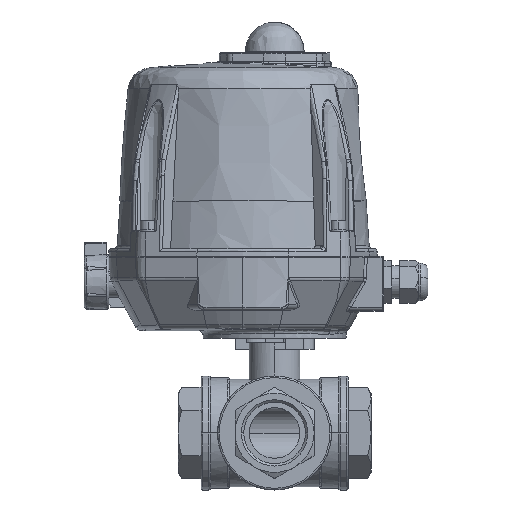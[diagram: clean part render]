
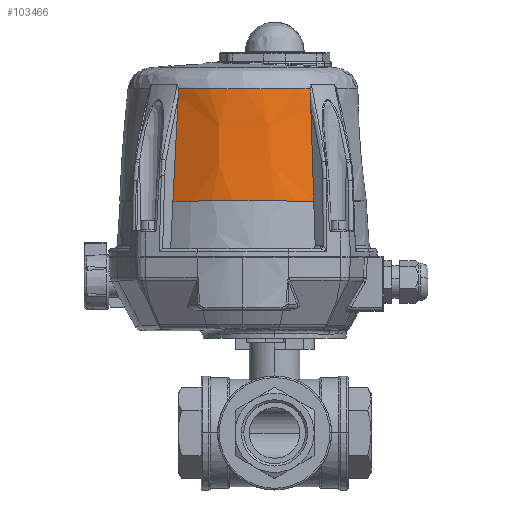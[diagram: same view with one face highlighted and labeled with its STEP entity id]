
A CAD part, top view. The second image highlights one B-rep face of the part: STEP entity #103466.
In plain terms, the highlighted free-form (B-spline) face has degree [3, 3] with [4, 4] control points.
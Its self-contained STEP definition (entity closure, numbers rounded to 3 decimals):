
#11634 = EDGE_LOOP ( 'NONE', ( #109463, #109465, #109467, #109469, #109471, #109473 ) ) ;
#26461 = FACE_OUTER_BOUND ( 'NONE', #11634, .T. ) ;
#26466 = CARTESIAN_POINT ( 'NONE',  ( -41.739, 106., 59.457 ) ) ;
#26504 = CARTESIAN_POINT ( 'NONE',  ( -15.302, 106., 78.016 ) ) ;
#26506 = CARTESIAN_POINT ( 'NONE',  ( 16.997, 106., 77.664 ) ) ;
#26508 = CARTESIAN_POINT ( 'NONE',  ( 43.023, 106., 58.534 ) ) ;
#26510 = CARTESIAN_POINT ( 'NONE',  ( -43.289, 82.41, 61.664 ) ) ;
#26512 = CARTESIAN_POINT ( 'NONE',  ( -15.87, 82.41, 80.912 ) ) ;
#26514 = CARTESIAN_POINT ( 'NONE',  ( 17.628, 82.41, 80.548 ) ) ;
#26516 = CARTESIAN_POINT ( 'NONE',  ( 44.621, 82.41, 60.708 ) ) ;
#26518 = CARTESIAN_POINT ( 'NONE',  ( -44.295, 58.73, 63.097 ) ) ;
#26520 = CARTESIAN_POINT ( 'NONE',  ( -16.239, 58.73, 82.792 ) ) ;
#26522 = CARTESIAN_POINT ( 'NONE',  ( 18.037, 58.73, 82.419 ) ) ;
#26524 = CARTESIAN_POINT ( 'NONE',  ( 45.658, 58.73, 62.118 ) ) ;
#26526 = CARTESIAN_POINT ( 'NONE',  ( -44.755, 35., 63.753 ) ) ;
#26528 = CARTESIAN_POINT ( 'NONE',  ( -16.408, 35., 83.653 ) ) ;
#26530 = CARTESIAN_POINT ( 'NONE',  ( 18.225, 35., 83.276 ) ) ;
#26532 = CARTESIAN_POINT ( 'NONE',  ( 46.132, 35., 62.764 ) ) ;
#34936 = EDGE_CURVE ( 'NONE', #77353, #77347, #41219, .T. ) ;
#34947 = EDGE_CURVE ( 'NONE', #77347, #77345, #38226, .T. ) ;
#34948 = EDGE_CURVE ( 'NONE', #77345, #77339, #38329, .T. ) ;
#34949 = EDGE_CURVE ( 'NONE', #77339, #77338, #41247, .T. ) ;
#34950 = EDGE_CURVE ( 'NONE', #77338, #77337, #38195, .T. ) ;
#34951 = EDGE_CURVE ( 'NONE', #77337, #77353, #38276, .T. ) ;
#38195 = B_SPLINE_CURVE_WITH_KNOTS ( 'NONE', 3,
 ( #87379, #87370, #87373, #87381 ),
 .UNSPECIFIED., .F., .F.,
 ( 4, 4 ),
 ( 0.288, 0.346 ),
 .UNSPECIFIED. ) ;
#38226 = B_SPLINE_CURVE_WITH_KNOTS ( 'NONE', 3,
 ( #87340, #87341, #87351, #87353, #87354, #87356, #87358, #87360 ),
 .UNSPECIFIED., .F., .F.,
 ( 4, 2, 2, 4 ),
 ( 0., 0.001, 0.003, 0.006 ),
 .UNSPECIFIED. ) ;
#38276 = B_SPLINE_CURVE_WITH_KNOTS ( 'NONE', 3,
 ( #87349, #87364, #87387, #87389, #87391, #87393, #87395, #87397, #87398, #87400, #87402, #87404 ),
 .UNSPECIFIED., .F., .F.,
 ( 4, 2, 2, 2, 2, 4 ),
 ( 0., 0.007, 0.008, 0.01, 0.012, 0.013 ),
 .UNSPECIFIED. ) ;
#38329 = B_SPLINE_CURVE_WITH_KNOTS ( 'NONE', 3,
 ( #87338, #87327, #87365, #87367 ),
 .UNSPECIFIED., .F., .F.,
 ( 4, 4 ),
 ( 0.134, 0.199 ),
 .UNSPECIFIED. ) ;
#41199 = AXIS2_PLACEMENT_3D ( 'NONE', #87257, #87259, #87261 ) ;
#41219 = CIRCLE ( 'NONE', #41199, 72.645 ) ;
#41243 = AXIS2_PLACEMENT_3D ( 'NONE', #87375, #87376, #87378 ) ;
#41247 = CIRCLE ( 'NONE', #41243, 77.894 ) ;
#69293 = CARTESIAN_POINT ( 'NONE',  ( 42.933, 92.868, 60.331 ) ) ;
#69294 = CARTESIAN_POINT ( 'NONE',  ( 44.766, 35., 63.745 ) ) ;
#69295 = CARTESIAN_POINT ( 'NONE',  ( -44.283, 35., 64.082 ) ) ;
#69301 = CARTESIAN_POINT ( 'NONE',  ( -40.943, 100.543, 60.741 ) ) ;
#69303 = CARTESIAN_POINT ( 'NONE',  ( -40.947, 106., 60.005 ) ) ;
#69309 = CARTESIAN_POINT ( 'NONE',  ( 42.59, 106., 58.85 ) ) ;
#77337 = VERTEX_POINT ( 'NONE', #69293 ) ;
#77338 = VERTEX_POINT ( 'NONE', #69294 ) ;
#77339 = VERTEX_POINT ( 'NONE', #69295 ) ;
#77345 = VERTEX_POINT ( 'NONE', #69301 ) ;
#77347 = VERTEX_POINT ( 'NONE', #69303 ) ;
#77353 = VERTEX_POINT ( 'NONE', #69309 ) ;
#87257 = CARTESIAN_POINT ( 'NONE',  ( 0., 106., 0. ) ) ;
#87259 = DIRECTION ( 'NONE',  ( 0., -1., 0. ) ) ;
#87261 = DIRECTION ( 'NONE',  ( -1., 0., 0. ) ) ;
#87327 = CARTESIAN_POINT ( 'NONE',  ( -42.641, 78.73, 62.44 ) ) ;
#87338 = CARTESIAN_POINT ( 'NONE',  ( -40.943, 100.543, 60.741 ) ) ;
#87340 = CARTESIAN_POINT ( 'NONE',  ( -40.947, 106., 60.005 ) ) ;
#87341 = CARTESIAN_POINT ( 'NONE',  ( -40.887, 105.553, 60.108 ) ) ;
#87349 = CARTESIAN_POINT ( 'NONE',  ( 42.933, 92.868, 60.331 ) ) ;
#87351 = CARTESIAN_POINT ( 'NONE',  ( -40.855, 105.102, 60.192 ) ) ;
#87353 = CARTESIAN_POINT ( 'NONE',  ( -40.816, 104.197, 60.341 ) ) ;
#87354 = CARTESIAN_POINT ( 'NONE',  ( -40.811, 103.742, 60.406 ) ) ;
#87356 = CARTESIAN_POINT ( 'NONE',  ( -40.824, 102.375, 60.58 ) ) ;
#87358 = CARTESIAN_POINT ( 'NONE',  ( -40.871, 101.458, 60.67 ) ) ;
#87360 = CARTESIAN_POINT ( 'NONE',  ( -40.943, 100.543, 60.741 ) ) ;
#87364 = CARTESIAN_POINT ( 'NONE',  ( 42.812, 95.066, 60.149 ) ) ;
#87365 = CARTESIAN_POINT ( 'NONE',  ( -43.752, 56.883, 63.551 ) ) ;
#87367 = CARTESIAN_POINT ( 'NONE',  ( -44.283, 35., 64.082 ) ) ;
#87370 = CARTESIAN_POINT ( 'NONE',  ( 44.608, 54.303, 63.06 ) ) ;
#87373 = CARTESIAN_POINT ( 'NONE',  ( 43.998, 73.593, 61.922 ) ) ;
#87375 = CARTESIAN_POINT ( 'NONE',  ( 0., 35., 0. ) ) ;
#87376 = DIRECTION ( 'NONE',  ( 0., 1., 0. ) ) ;
#87378 = DIRECTION ( 'NONE',  ( -1., 0., 0. ) ) ;
#87379 = CARTESIAN_POINT ( 'NONE',  ( 44.766, 35., 63.745 ) ) ;
#87381 = CARTESIAN_POINT ( 'NONE',  ( 42.933, 92.868, 60.331 ) ) ;
#87387 = CARTESIAN_POINT ( 'NONE',  ( 42.684, 97.263, 59.962 ) ) ;
#87389 = CARTESIAN_POINT ( 'NONE',  ( 42.518, 100.009, 59.72 ) ) ;
#87391 = CARTESIAN_POINT ( 'NONE',  ( 42.481, 100.558, 59.674 ) ) ;
#87393 = CARTESIAN_POINT ( 'NONE',  ( 42.43, 101.655, 59.564 ) ) ;
#87395 = CARTESIAN_POINT ( 'NONE',  ( 42.414, 102.203, 59.501 ) ) ;
#87397 = CARTESIAN_POINT ( 'NONE',  ( 42.407, 103.298, 59.358 ) ) ;
#87398 = CARTESIAN_POINT ( 'NONE',  ( 42.415, 103.844, 59.277 ) ) ;
#87400 = CARTESIAN_POINT ( 'NONE',  ( 42.468, 104.929, 59.089 ) ) ;
#87402 = CARTESIAN_POINT ( 'NONE',  ( 42.511, 105.468, 58.983 ) ) ;
#87404 = CARTESIAN_POINT ( 'NONE',  ( 42.59, 106., 58.85 ) ) ;
#103466 = ADVANCED_FACE ( 'NONE', ( #26461 ), #111636, .T. ) ;
#109463 = ORIENTED_EDGE ( 'NONE', *, *, #34936, .T. ) ;
#109465 = ORIENTED_EDGE ( 'NONE', *, *, #34947, .T. ) ;
#109467 = ORIENTED_EDGE ( 'NONE', *, *, #34948, .T. ) ;
#109469 = ORIENTED_EDGE ( 'NONE', *, *, #34949, .T. ) ;
#109471 = ORIENTED_EDGE ( 'NONE', *, *, #34950, .T. ) ;
#109473 = ORIENTED_EDGE ( 'NONE', *, *, #34951, .T. ) ;
#111636 =( BOUNDED_SURFACE ( )  B_SPLINE_SURFACE ( 3, 3, ( 
 ( #26466, #26504, #26506, #26508 ),
 ( #26510, #26512, #26514, #26516 ),
 ( #26518, #26520, #26522, #26524 ),
 ( #26526, #26528, #26530, #26532 ) ),
 .UNSPECIFIED., .F., .F., .F. ) 
 B_SPLINE_SURFACE_WITH_KNOTS ( ( 4, 4 ),
 ( 4, 4 ),
 ( 0., 1. ),
 ( 0., 1. ),
 .UNSPECIFIED. ) 
 GEOMETRIC_REPRESENTATION_ITEM ( )  RATIONAL_B_SPLINE_SURFACE ( (
 ( 1., 0.875, 0.875, 1.),
 ( 0.999, 0.874, 0.874, 0.999),
 ( 0.999, 0.874, 0.874, 0.999),
 ( 1., 0.875, 0.875, 1.) ) ) 
 REPRESENTATION_ITEM ( '' )  SURFACE ( )  );
